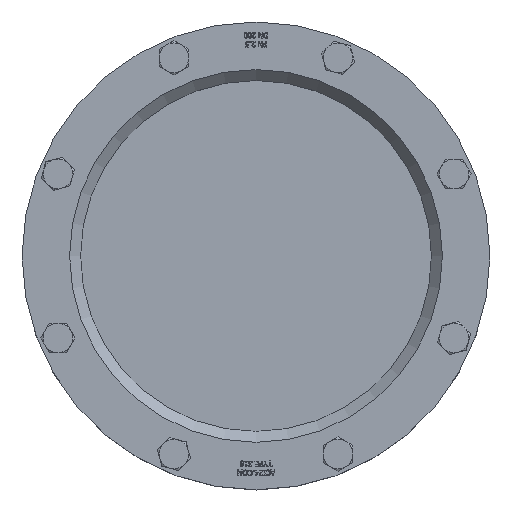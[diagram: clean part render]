
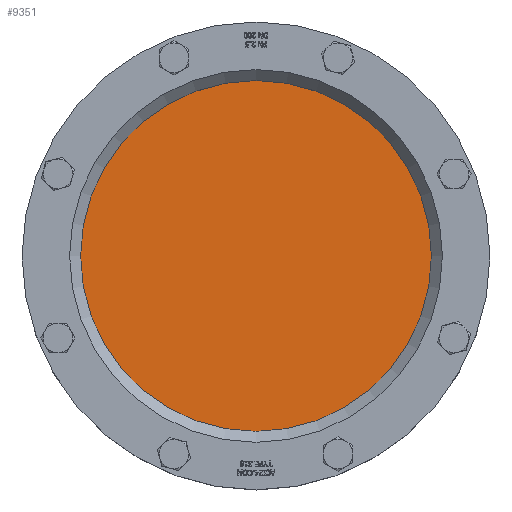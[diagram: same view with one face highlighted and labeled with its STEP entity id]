
A CAD part, top view. The second image highlights one B-rep face of the part: STEP entity #9351.
In plain terms, the highlighted planar face has unit normal (0, 0, 1).
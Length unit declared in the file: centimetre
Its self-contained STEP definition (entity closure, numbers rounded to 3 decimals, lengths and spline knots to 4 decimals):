
#2943=FACE_OUTER_BOUND('',#3469,.T.);
#3469=EDGE_LOOP('',(#6371));
#4062=CIRCLE('',#9881,11.25);
#4134=VERTEX_POINT('',#11963);
#5024=EDGE_CURVE('',#4134,#4134,#4062,.T.);
#6371=ORIENTED_EDGE('',*,*,#5024,.F.);
#9065=PLANE('',#9880);
#9351=ADVANCED_FACE('',(#2943),#9065,.F.);
#9880=AXIS2_PLACEMENT_3D('',#11962,#10303,#10304);
#9881=AXIS2_PLACEMENT_3D('',#11964,#10305,#10306);
#10303=DIRECTION('center_axis',(0.,0.,
-1.));
#10304=DIRECTION('ref_axis',(-1.,0.,0.));
#10305=DIRECTION('center_axis',(0.,0.,
-1.));
#10306=DIRECTION('ref_axis',(1.,0.,0.));
#11962=CARTESIAN_POINT('Origin',(3.6266,0.0625,-11.8311));
#11963=CARTESIAN_POINT('',(-7.6234,0.0625,-11.8311));
#11964=CARTESIAN_POINT('Origin',(3.6266,0.0625,-11.8311));
